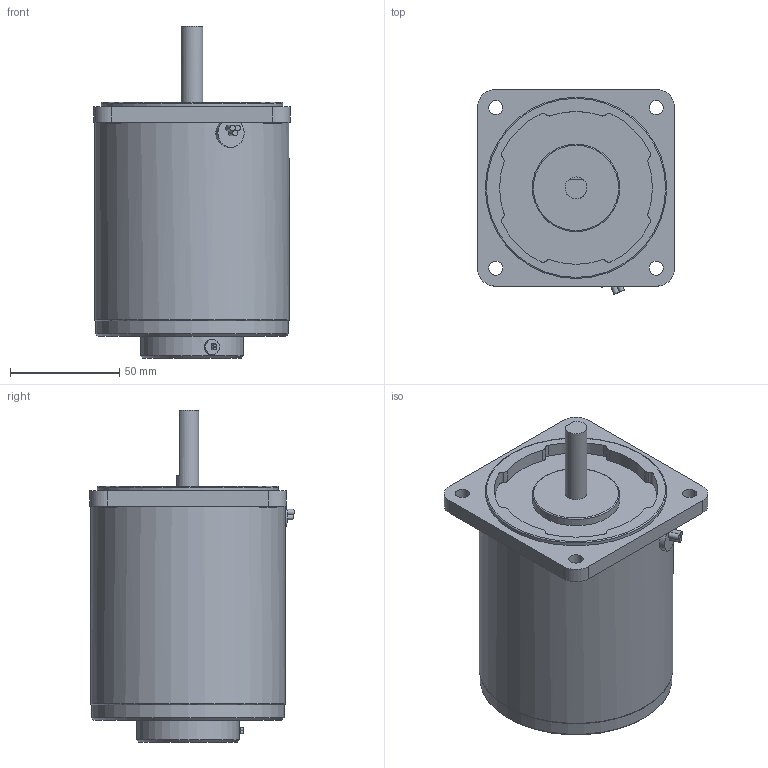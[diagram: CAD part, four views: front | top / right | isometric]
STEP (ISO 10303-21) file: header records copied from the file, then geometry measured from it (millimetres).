
FILE_DESCRIPTION((''),'2;1');
FILE_NAME('E:\2공장-도면\3D\표준형 3D(민규)\step file\SU,SP\K9IS40Nㅁ-Sㅁ.stp','2014-11-14T14:06:06',('AHN'),(''),'Autodesk Inventor 2012','Autodesk Inventor 2012','');
FILE_SCHEMA(('CONFIG_CONTROL_DESIGN'));
Length unit declared in the file: millimetre
Products named in the file (1): K9IS40Nㅁ-Sㅁ
Bounding box: 90 x 93.75 x 152 mm (x, y, z)
Volume: 675460.1 mm3; surface area: 51195.8 mm2
Topology: 1 solids, 1 shells, 83 faces, 189 edges, 117 vertices
Faces by surface type: cylinder 52, plane 26, torus 3, cone 2
Full cylindrical faces by diameter (mm): 1.4 x2, 6.5 x4, 7 x1, 8 x4, 10 x1, 40 x1, 47 x1, 83 x1, 88 x1, 89 x1
Entity records: 2318 total; most frequent: DIRECTION 437, CARTESIAN_POINT 423, ORIENTED_EDGE 328, AXIS2_PLACEMENT_3D 191, EDGE_CURVE 164, EDGE_LOOP 124, VERTEX_POINT 112, CIRCLE 107
